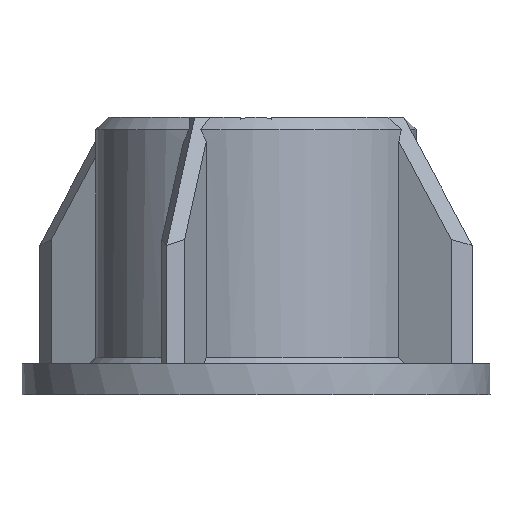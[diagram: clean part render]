
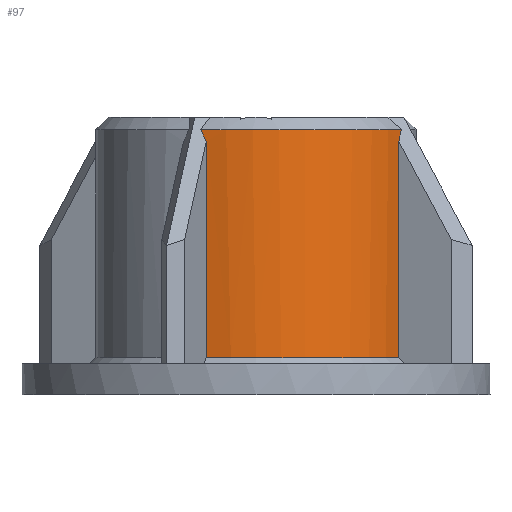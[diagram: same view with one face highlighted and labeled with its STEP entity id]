
A CAD part, left-side view. The second image highlights one B-rep face of the part: STEP entity #97.
In plain terms, the highlighted cylindrical face has radius 6.5 mm (diameter 13 mm), a partial arc.
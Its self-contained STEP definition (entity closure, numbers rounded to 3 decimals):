
#71=CYLINDRICAL_SURFACE('',#1313,6.5);
#97=ADVANCED_FACE('',(#212),#71,.T.);
#212=FACE_OUTER_BOUND('',#276,.T.);
#276=EDGE_LOOP('',(#656,#657,#658,#659,#660,#661));
#354=LINE('',#1812,#446);
#365=LINE('',#1870,#457);
#446=VECTOR('',#1426,1.);
#457=VECTOR('',#1447,1.);
#524=CIRCLE('',#1311,6.5);
#525=CIRCLE('',#1312,6.5);
#656=ORIENTED_EDGE('',*,*,#1128,.T.);
#657=ORIENTED_EDGE('',*,*,#1129,.T.);
#658=ORIENTED_EDGE('',*,*,#1130,.T.);
#659=ORIENTED_EDGE('',*,*,#1095,.T.);
#660=ORIENTED_EDGE('',*,*,#1131,.F.);
#661=ORIENTED_EDGE('',*,*,#1077,.F.);
#954=VERTEX_POINT('',#1811);
#955=VERTEX_POINT('',#1813);
#969=VERTEX_POINT('',#1871);
#970=VERTEX_POINT('',#1872);
#992=VERTEX_POINT('',#1981);
#993=VERTEX_POINT('',#1983);
#1077=EDGE_CURVE('',#954,#955,#354,.T.);
#1095=EDGE_CURVE('',#969,#970,#365,.T.);
#1128=EDGE_CURVE('',#954,#992,#1248,.T.);
#1129=EDGE_CURVE('',#992,#993,#524,.T.);
#1130=EDGE_CURVE('',#993,#969,#1249,.T.);
#1131=EDGE_CURVE('',#955,#970,#525,.T.);
#1248=B_SPLINE_CURVE_WITH_KNOTS('',3,(#1977,#1978,#1979,#1980),
 .UNSPECIFIED.,.F.,.F.,(4,4),(0.,1.),.UNSPECIFIED.);
#1249=B_SPLINE_CURVE_WITH_KNOTS('',3,(#1984,#1985,#1986,#1987),
 .UNSPECIFIED.,.F.,.F.,(4,4),(0.,1.),.UNSPECIFIED.);
#1311=AXIS2_PLACEMENT_3D('',#1982,#1488,#1489);
#1312=AXIS2_PLACEMENT_3D('',#1988,#1490,#1491);
#1313=AXIS2_PLACEMENT_3D('',#1989,#1492,#1493);
#1426=DIRECTION('',(0.,0.,-1.));
#1447=DIRECTION('',(0.,0.,-1.));
#1488=DIRECTION('',(0.,0.,-1.));
#1489=DIRECTION('',(1.,0.,0.));
#1490=DIRECTION('',(0.,0.,-1.));
#1491=DIRECTION('',(-1.,0.,0.));
#1492=DIRECTION('',(0.,0.,-1.));
#1493=DIRECTION('',(-1.,0.,0.));
#1811=CARTESIAN_POINT('',(-2.942,-5.796,9.033));
#1812=CARTESIAN_POINT('',(-2.942,-5.796,10.));
#1813=CARTESIAN_POINT('',(-2.942,-5.796,0.25));
#1870=CARTESIAN_POINT('',(-6.179,2.018,10.));
#1871=CARTESIAN_POINT('',(-6.179,2.018,9.033));
#1872=CARTESIAN_POINT('',(-6.179,2.018,0.25));
#1977=CARTESIAN_POINT('',(-2.942,-5.796,9.033));
#1978=CARTESIAN_POINT('',(-2.869,-5.833,9.185));
#1979=CARTESIAN_POINT('',(-2.796,-5.869,9.341));
#1980=CARTESIAN_POINT('',(-2.72,-5.903,9.5));
#1981=CARTESIAN_POINT('',(-2.72,-5.903,9.5));
#1982=CARTESIAN_POINT('',(0.,0.,9.5));
#1983=CARTESIAN_POINT('',(-6.098,2.251,9.5));
#1984=CARTESIAN_POINT('',(-6.098,2.251,9.5));
#1985=CARTESIAN_POINT('',(-6.127,2.173,9.341));
#1986=CARTESIAN_POINT('',(-6.153,2.096,9.185));
#1987=CARTESIAN_POINT('',(-6.179,2.018,9.033));
#1988=CARTESIAN_POINT('',(0.,0.,0.25));
#1989=CARTESIAN_POINT('',(0.,0.,10.));
